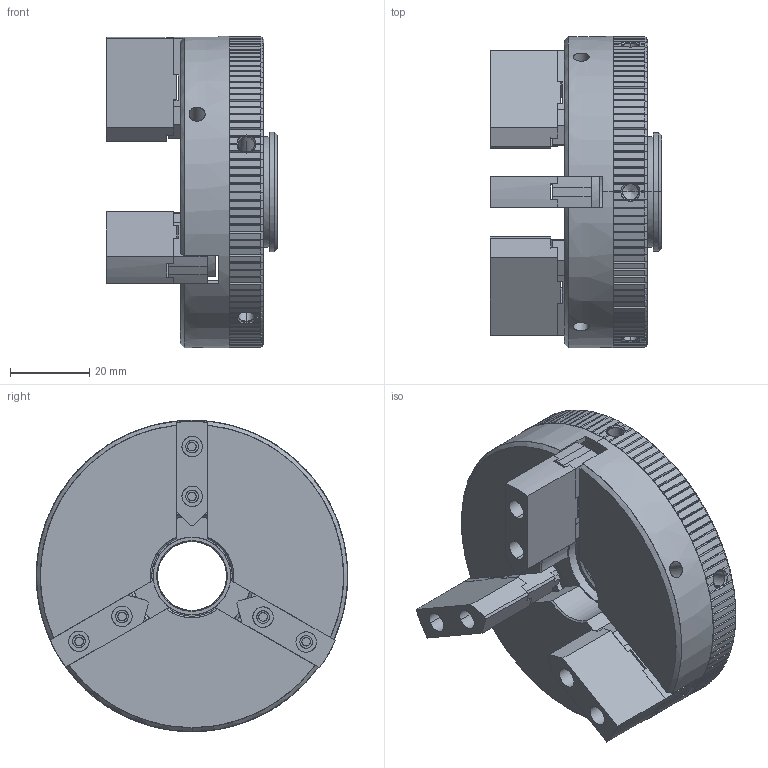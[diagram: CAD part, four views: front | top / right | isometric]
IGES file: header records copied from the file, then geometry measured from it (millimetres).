
Start section: Comment
Global section: file name: 1040  W 1141.igs; native system:  By Spatial Corp.; preprocessor: XPlus PS/IGES 3.0; author: sherline; organization: Title; date: 20211101.152342; units: inch
Bounding box: 43.36 x 78.74 x 78.74 mm (x, y, z)
Surface area: 43191.5 mm2 (no closed solid volume)
Topology: 0 solids, 0 shells, 901 faces, 4952 edges, 4936 vertices
Faces by surface type: extrusion 488, revolution 413
